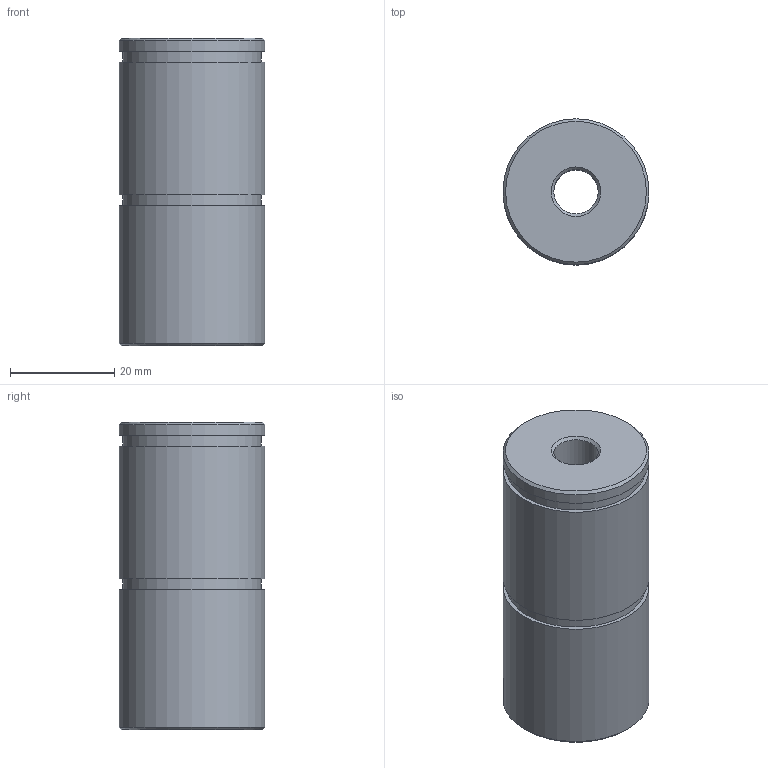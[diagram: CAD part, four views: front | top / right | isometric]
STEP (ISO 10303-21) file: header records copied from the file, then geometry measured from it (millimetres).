
FILE_DESCRIPTION(/* description */ (''),/* implementation_level */ '2;1');
FILE_NAME(/* name */ 'TRAYLOADER.109.stp',/* time_stamp */ '2025-05-12T16:12:21+02:00',/* author */ (''),/* organization */ (''),/* preprocessor_version */ 'ST-DEVELOPER v19.4',/* originating_system */ 'SIEMENS PLM Software NX2306.5001',/* authorisation */ '');
FILE_SCHEMA (('AP203_CONFIGURATION_CONTROLLED_3D_DESIGN_OF_MECHANICAL_PARTS_AND_ASSEMBLIES_MIM_LF { 1 0 10303 403 2 1 2}'));
Length unit declared in the file: millimetre
Products named in the file (1): TRAYLOADER.109_objects
Bounding box: 28 x 28 x 59 mm (x, y, z)
Volume: 32700.6 mm3; surface area: 8037.9 mm2
Topology: 1 solids, 1 shells, 16 faces, 28 edges, 18 vertices
Faces by surface type: cylinder 6, plane 6, cone 4
Full cylindrical faces by diameter (mm): 8.5 x1, 26.6 x2, 28 x3
Entity records: 414 total; most frequent: DIRECTION 66, CARTESIAN_POINT 49, AXIS2_PLACEMENT_3D 33, FACE_BOUND 32, EDGE_LOOP 32, ORIENTED_EDGE 32, ADVANCED_FACE 16, VERTEX_POINT 16
